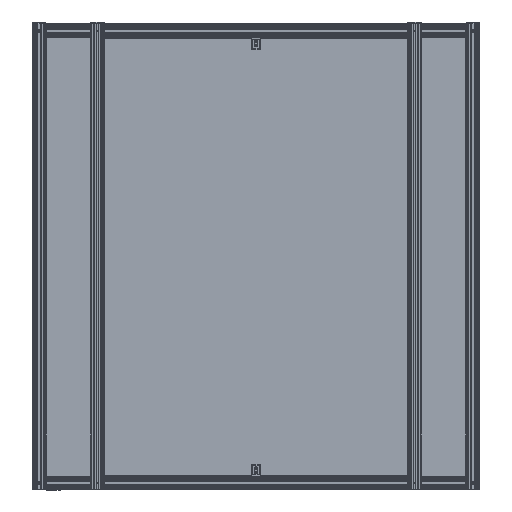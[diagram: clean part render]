
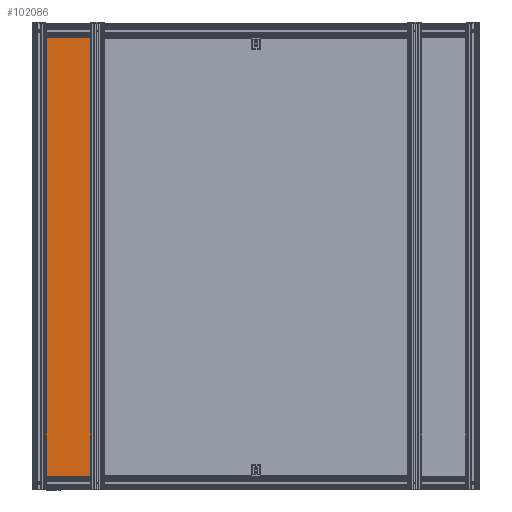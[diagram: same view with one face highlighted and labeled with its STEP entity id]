
A CAD part, front view. The second image highlights one B-rep face of the part: STEP entity #102086.
In plain terms, the highlighted planar face has unit normal (0, -1, 0).
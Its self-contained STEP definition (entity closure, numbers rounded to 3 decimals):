
#4775=PLANE('',#109814);
#10322=FACE_OUTER_BOUND('',#15845,.T.);
#15845=EDGE_LOOP('',(#95902,#95903,#95904,#95905));
#27572=LINE('',#169221,#39323);
#27576=LINE('',#169229,#39327);
#27579=LINE('',#169235,#39330);
#27582=LINE('',#169240,#39333);
#39323=VECTOR('',#136725,1000.);
#39327=VECTOR('',#136731,1000.);
#39330=VECTOR('',#136736,1000.);
#39333=VECTOR('',#136741,1000.);
#51307=VERTEX_POINT('',#169219);
#51308=VERTEX_POINT('',#169220);
#51311=VERTEX_POINT('',#169228);
#51313=VERTEX_POINT('',#169234);
#66184=EDGE_CURVE('',#51307,#51308,#27572,.T.);
#66188=EDGE_CURVE('',#51308,#51311,#27576,.T.);
#66191=EDGE_CURVE('',#51311,#51313,#27579,.T.);
#66194=EDGE_CURVE('',#51313,#51307,#27582,.T.);
#95902=ORIENTED_EDGE('',*,*,#66184,.F.);
#95903=ORIENTED_EDGE('',*,*,#66194,.F.);
#95904=ORIENTED_EDGE('',*,*,#66191,.F.);
#95905=ORIENTED_EDGE('',*,*,#66188,.F.);
#102086=ADVANCED_FACE('',(#10322),#4775,.F.);
#109814=AXIS2_PLACEMENT_3D('',#169242,#136743,#136744);
#136725=DIRECTION('',(1.,0.,0.));
#136731=DIRECTION('',(0.,0.,-1.));
#136736=DIRECTION('',(-1.,0.,0.));
#136741=DIRECTION('',(0.,0.,1.));
#136743=DIRECTION('center_axis',(0.,1.,0.));
#136744=DIRECTION('ref_axis',(0.,0.,
-1.));
#169219=CARTESIAN_POINT('',(-458.,-487.,978.));
#169220=CARTESIAN_POINT('',(-347.,-487.,978.));
#169221=CARTESIAN_POINT('',(-458.,-487.,978.));
#169228=CARTESIAN_POINT('',(-347.,-487.,22.));
#169229=CARTESIAN_POINT('',(-347.,-487.,978.));
#169234=CARTESIAN_POINT('',(-458.,-487.,22.));
#169235=CARTESIAN_POINT('',(-347.,-487.,22.));
#169240=CARTESIAN_POINT('',(-458.,-487.,22.));
#169242=CARTESIAN_POINT('Origin',(-347.,-487.,978.));
